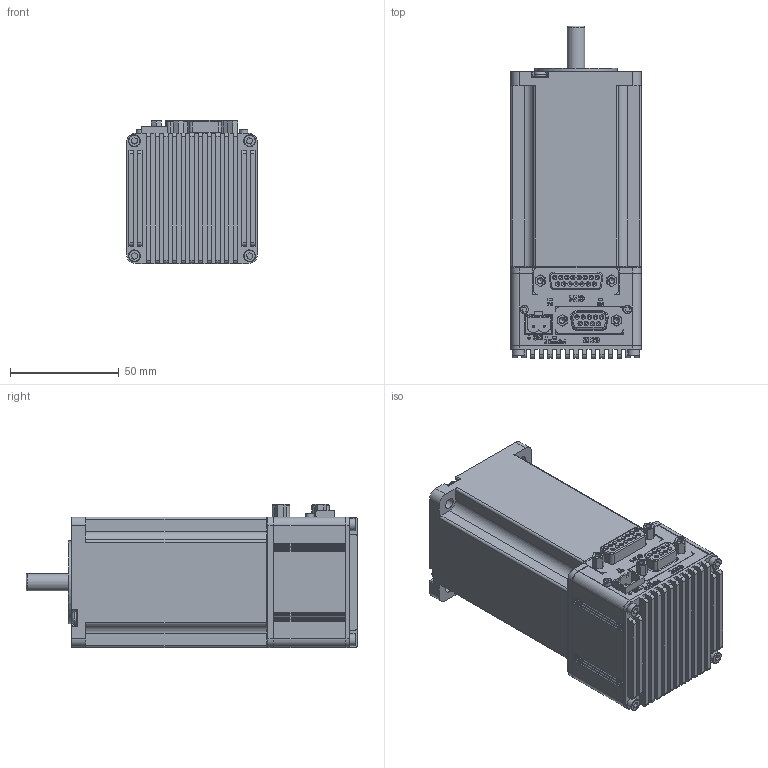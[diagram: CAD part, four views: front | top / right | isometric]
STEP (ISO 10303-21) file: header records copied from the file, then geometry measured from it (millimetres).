
FILE_DESCRIPTION(/* description */ ('Unknown'),/* implementation_level */ '2;1');
FILE_NAME(/* name */ 'SLIM9-390B2_231106',/* time_stamp */ '2023-11-06T11:48:24+08:00',/* author */ ('Unknown'),/* organization */ ('Unknown'),/* preprocessor_version */ 'ST-DEVELOPER v16.7',/* originating_system */ 'DEX',/* authorisation */ $);
FILE_SCHEMA (('AUTOMOTIVE_DESIGN {1 0 10303 214 3 1 1}'));
Length unit declared in the file: millimetre
Products named in the file (1): SLIM9-390B2
Bounding box: 60 x 152.7 x 65.8 mm (x, y, z)
Volume: 332171.4 mm3; surface area: 66381.6 mm2
Topology: 1 solids, 6 shells, 1267 faces, 3217 edges, 2038 vertices
Faces by surface type: plane 740, cylinder 383, torus 110, bspline 30, cone 4
Full cylindrical faces by diameter (mm): 1 x26, 2 x2, 2.459 x8, 2.5 x2, 3 x8, 3.2 x4, 3.5 x4, 3.8 x2, 5 x4, 5.5 x8, 7 x1, 8 x1, 11 x1, 38.1 x1
Entity records: 47287 total; most frequent: CARTESIAN_POINT 8342, DIRECTION 6228, ORIENTED_EDGE 6036, EDGE_CURVE 3018, LINE 2080, VECTOR 2080, AXIS2_PLACEMENT_3D 2074, VERTEX_POINT 1979
